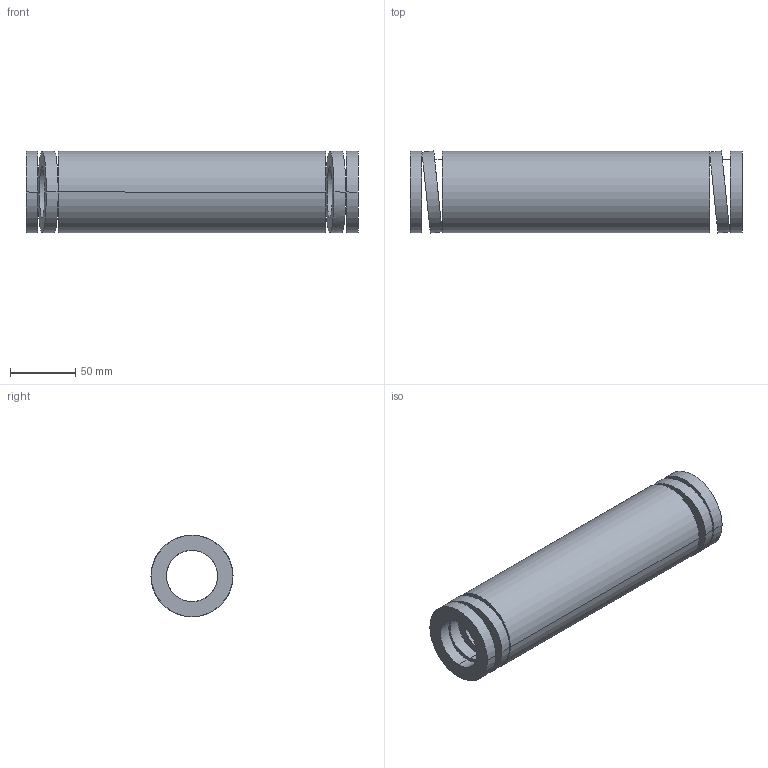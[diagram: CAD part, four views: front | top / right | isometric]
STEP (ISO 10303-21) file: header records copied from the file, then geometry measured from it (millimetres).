
FILE_DESCRIPTION(('CATIA V5 STEP Exchange'),'2;1');
FILE_NAME('C:\Users\Utente\Desktop\IO LAVORO\3D X SITO CF\X SITO\3D files 392B\392-B63-254.stp','2021-08-13T11:42:48+00:00',('none'),('none'),'CATIA Version 5 Release 20 GA (IN-10)','CATIA V5 STEP AP203','none');
FILE_SCHEMA(('CONFIG_CONTROL_DESIGN'));
Length unit declared in the file: millimetre
Products named in the file (1): 392-B63-254
Bounding box: 254 x 62.8 x 62.2 mm (x, y, z)
Volume: 440886.3 mm3; surface area: 95007.4 mm2
Topology: 1 solids, 1 shells, 38 faces, 92 edges, 64 vertices
Faces by surface type: cylinder 28, plane 10
Entity records: 1578 total; most frequent: CARTESIAN_POINT 691, ORIENTED_EDGE 184, DIRECTION 128, EDGE_CURVE 92, VERTEX_POINT 64, AXIS2_PLACEMENT_3D 63, EDGE_LOOP 56, B_SPLINE_CURVE_WITH_KNOTS 40
